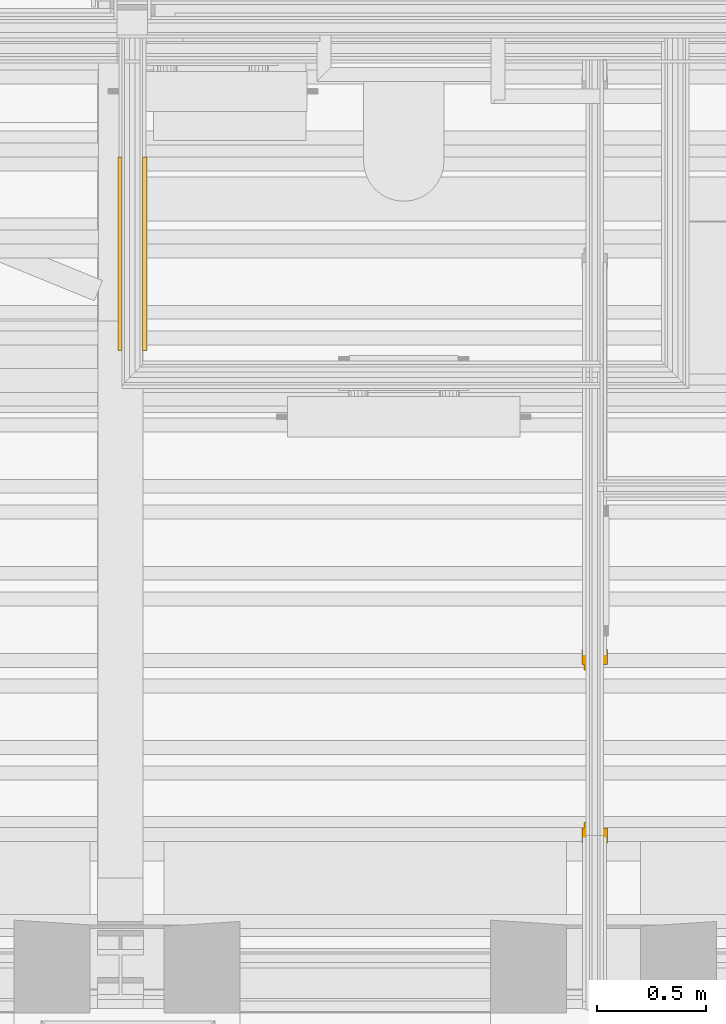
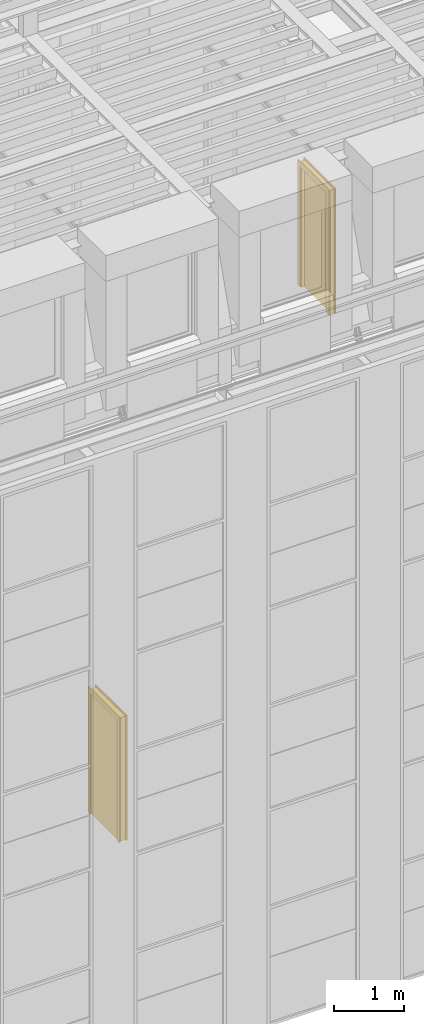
# One storey, part 115 of 183: 2 doors.
"""IFC2X3 building model written with IfcOpenShell, lengths in metres."""

from ifc_helpers import new_model, entity, si_unit, converted_unit, derived_unit, money_unit, direction, frame, origin_with_axes, place, context, subcontext, project, spatial, faceted_brep, material, type_object, element, save


model = new_model("IFC2X3")

# Units and contexts
model_context = context("Model", 3, precision=1e-05, world=origin_with_axes(), true_north=direction((0.0, 1.0)))
body_context = subcontext(model_context, "Body", "Model", "MODEL_VIEW", scale=1.0)
ifc_project = project(units=[si_unit("LENGTHUNIT", "METRE"), si_unit("AREAUNIT", "SQUARE_METRE"), si_unit("VOLUMEUNIT", "CUBIC_METRE"), si_unit("ABSORBEDDOSEUNIT", "GRAY"), si_unit("AMOUNTOFSUBSTANCEUNIT", "MOLE"), si_unit("DOSEEQUIVALENTUNIT", "SIEVERT"), si_unit("ELECTRICCAPACITANCEUNIT", "FARAD"), si_unit("ELECTRICCHARGEUNIT", "COULOMB"), si_unit("ELECTRICCONDUCTANCEUNIT", "SIEMENS"), si_unit("ELECTRICCURRENTUNIT", "AMPERE"), si_unit("ELECTRICRESISTANCEUNIT", "OHM"), si_unit("ELECTRICVOLTAGEUNIT", "VOLT"), si_unit("ENERGYUNIT", "JOULE"), si_unit("FORCEUNIT", "NEWTON"), si_unit("FREQUENCYUNIT", "HERTZ"), si_unit("ILLUMINANCEUNIT", "LUX"), si_unit("INDUCTANCEUNIT", "HENRY"), si_unit("LUMINOUSFLUXUNIT", "LUMEN"), si_unit("LUMINOUSINTENSITYUNIT", "CANDELA"), si_unit("MAGNETICFLUXDENSITYUNIT", "TESLA"), si_unit("MAGNETICFLUXUNIT", "WEBER"), si_unit("MASSUNIT", "GRAM"), converted_unit("PLANEANGLEUNIT", "degree", entity("IfcReal", 0.0174532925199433), si_unit("PLANEANGLEUNIT", "RADIAN"), dimensions=[0, 0, 0, 0, 0, 0, 0]), si_unit("POWERUNIT", "WATT"), si_unit("PRESSUREUNIT", "PASCAL"), si_unit("RADIOACTIVITYUNIT", "BECQUEREL"), si_unit("SOLIDANGLEUNIT", "STERADIAN"), si_unit("THERMODYNAMICTEMPERATUREUNIT", "KELVIN"), si_unit("TIMEUNIT", "SECOND"), derived_unit("ACCELERATIONUNIT", [(si_unit("LENGTHUNIT", "METRE"), 1), (si_unit("TIMEUNIT", "SECOND"), -2)]), derived_unit("ANGULARVELOCITYUNIT", [(converted_unit("PLANEANGLEUNIT", "degree", entity("IfcReal", 0.0174532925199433), si_unit("PLANEANGLEUNIT", "RADIAN"), dimensions=[0, 0, 0, 0, 0, 0, 0]), 1), (si_unit("TIMEUNIT", "SECOND"), -1)]), derived_unit("CURVATUREUNIT", [(converted_unit("PLANEANGLEUNIT", "degree", entity("IfcReal", 0.0174532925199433), si_unit("PLANEANGLEUNIT", "RADIAN"), dimensions=[0, 0, 0, 0, 0, 0, 0]), 1), (si_unit("LENGTHUNIT", "METRE"), -1)]), derived_unit("DYNAMICVISCOSITYUNIT", [(si_unit("PRESSUREUNIT", "PASCAL"), 1), (si_unit("TIMEUNIT", "SECOND"), 1)]), derived_unit("HEATFLUXDENSITYUNIT", [(si_unit("POWERUNIT", "WATT"), 1), (si_unit("LENGTHUNIT", "METRE"), -2)]), derived_unit("HEATINGVALUEUNIT", [(si_unit("ENERGYUNIT", "JOULE"), 1), (si_unit("MASSUNIT", "GRAM"), -1)]), derived_unit("INTEGERCOUNTRATEUNIT", [(si_unit("TIMEUNIT", "SECOND"), -1)]), derived_unit("IONCONCENTRATIONUNIT", [(si_unit("MASSUNIT", "GRAM"), 1), (si_unit("VOLUMEUNIT", "CUBIC_METRE"), -1)]), derived_unit("ISOTHERMALMOISTURECAPACITYUNIT", [(si_unit("VOLUMEUNIT", "CUBIC_METRE"), 1), (si_unit("MASSUNIT", "GRAM"), -1)]), derived_unit("KINEMATICVISCOSITYUNIT", [(si_unit("AREAUNIT", "SQUARE_METRE"), 1), (si_unit("TIMEUNIT", "SECOND"), -1)]), derived_unit("LINEARFORCEUNIT", [(si_unit("FORCEUNIT", "NEWTON"), 1), (si_unit("LENGTHUNIT", "METRE"), -1)]), derived_unit("LINEARMOMENTUNIT", [(si_unit("FORCEUNIT", "NEWTON"), 1), (si_unit("LENGTHUNIT", "METRE"), -1)]), derived_unit("LINEARSTIFFNESSUNIT", [(si_unit("FORCEUNIT", "NEWTON"), 1), (si_unit("LENGTHUNIT", "METRE"), -1)]), derived_unit("LINEARVELOCITYUNIT", [(si_unit("LENGTHUNIT", "METRE"), 1), (si_unit("TIMEUNIT", "SECOND"), -1)]), derived_unit("LUMINOUSINTENSITYDISTRIBUTIONUNIT", [(si_unit("LUMINOUSINTENSITYUNIT", "CANDELA"), 1), (si_unit("LUMINOUSFLUXUNIT", "LUMEN"), -1)]), derived_unit("MASSDENSITYUNIT", [(si_unit("MASSUNIT", "GRAM"), 1), (si_unit("VOLUMEUNIT", "CUBIC_METRE"), -1)]), derived_unit("MASSFLOWRATEUNIT", [(si_unit("MASSUNIT", "GRAM"), 1), (si_unit("TIMEUNIT", "SECOND"), -1)]), derived_unit("MASSPERLENGTHUNIT", [(si_unit("MASSUNIT", "GRAM"), 1), (si_unit("LENGTHUNIT", "METRE"), -1)]), derived_unit("MODULUSOFELASTICITYUNIT", [(si_unit("FORCEUNIT", "NEWTON"), 1), (si_unit("AREAUNIT", "SQUARE_METRE"), -1)]), derived_unit("MODULUSOFLINEARSUBGRADEREACTIONUNIT", [(si_unit("FORCEUNIT", "NEWTON"), 1), (si_unit("LENGTHUNIT", "METRE"), -2)]), derived_unit("MODULUSOFROTATIONALSUBGRADEREACTIONUNIT", [(si_unit("FORCEUNIT", "NEWTON"), 1), (si_unit("LENGTHUNIT", "METRE"), 1)]), derived_unit("MODULUSOFSUBGRADEREACTIONUNIT", [(si_unit("FORCEUNIT", "NEWTON"), 1), (si_unit("VOLUMEUNIT", "CUBIC_METRE"), -1)]), derived_unit("MOISTUREDIFFUSIVITYUNIT", [(si_unit("VOLUMEUNIT", "CUBIC_METRE"), 1), (si_unit("TIMEUNIT", "SECOND"), -1)]), derived_unit("MOLECULARWEIGHTUNIT", [(si_unit("MASSUNIT", "GRAM"), 1), (si_unit("AMOUNTOFSUBSTANCEUNIT", "MOLE"), -1)]), derived_unit("PLANARFORCEUNIT", [(si_unit("FORCEUNIT", "NEWTON"), 1), (si_unit("LENGTHUNIT", "METRE"), -2)]), derived_unit("ROTATIONALFREQUENCYUNIT", [(si_unit("TIMEUNIT", "SECOND"), -1)]), derived_unit("ROTATIONALMASSUNIT", [(si_unit("MASSUNIT", "GRAM"), 1), (si_unit("LENGTHUNIT", "METRE"), 2)]), derived_unit("ROTATIONALSTIFFNESSUNIT", [(si_unit("FORCEUNIT", "NEWTON"), 1), (si_unit("LENGTHUNIT", "METRE"), 1), (converted_unit("PLANEANGLEUNIT", "degree", entity("IfcReal", 0.0174532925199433), si_unit("PLANEANGLEUNIT", "RADIAN"), dimensions=[0, 0, 0, 0, 0, 0, 0]), -1)]), derived_unit("SECTIONAREAINTEGRALUNIT", [(si_unit("LENGTHUNIT", "METRE"), 5)]), derived_unit("SECTIONMODULUSUNIT", [(si_unit("LENGTHUNIT", "METRE"), 3)]), derived_unit("SHEARMODULUSUNIT", [(si_unit("FORCEUNIT", "NEWTON"), 1), (si_unit("AREAUNIT", "SQUARE_METRE"), -1)]), derived_unit("SOUNDPOWERUNIT", [(si_unit("ENERGYUNIT", "JOULE"), 1), (si_unit("TIMEUNIT", "SECOND"), -1)]), derived_unit("SPECIFICHEATCAPACITYUNIT", [(si_unit("FORCEUNIT", "NEWTON"), 1), (si_unit("MASSUNIT", "GRAM"), -1), (si_unit("THERMODYNAMICTEMPERATUREUNIT", "KELVIN"), -1)]), derived_unit("TEMPERATUREGRADIENTUNIT", [(si_unit("THERMODYNAMICTEMPERATUREUNIT", "KELVIN"), 1), (si_unit("LENGTHUNIT", "METRE"), -1)]), derived_unit("THERMALADMITTANCEUNIT", [(si_unit("POWERUNIT", "WATT"), 1), (si_unit("AREAUNIT", "SQUARE_METRE"), -1), (si_unit("THERMODYNAMICTEMPERATUREUNIT", "KELVIN"), -1)]), derived_unit("THERMALCONDUCTANCEUNIT", [(si_unit("POWERUNIT", "WATT"), 1), (si_unit("LENGTHUNIT", "METRE"), -1), (si_unit("THERMODYNAMICTEMPERATUREUNIT", "KELVIN"), -1)]), derived_unit("THERMALEXPANSIONCOEFFICIENTUNIT", [(si_unit("THERMODYNAMICTEMPERATUREUNIT", "KELVIN"), -1)]), derived_unit("THERMALRESISTANCEUNIT", [(si_unit("AREAUNIT", "SQUARE_METRE"), 1), (si_unit("POWERUNIT", "WATT"), -1)]), derived_unit("THERMALTRANSMITTANCEUNIT", [(si_unit("POWERUNIT", "WATT"), 1), (si_unit("AREAUNIT", "SQUARE_METRE"), -1), (si_unit("THERMODYNAMICTEMPERATUREUNIT", "KELVIN"), -1)]), derived_unit("TORQUEUNIT", [(si_unit("FORCEUNIT", "NEWTON"), 1), (si_unit("LENGTHUNIT", "METRE"), 1)]), derived_unit("VAPORPERMEABILITYUNIT", [(si_unit("MASSUNIT", "GRAM"), 1), (si_unit("TIMEUNIT", "SECOND"), -1)]), derived_unit("VOLUMETRICFLOWRATEUNIT", [(si_unit("VOLUMEUNIT", "CUBIC_METRE"), 1), (si_unit("TIMEUNIT", "SECOND"), -1)]), derived_unit("WARPINGCONSTANTUNIT", [(si_unit("LENGTHUNIT", "METRE"), 6)]), derived_unit("WARPINGMOMENTUNIT", [(si_unit("FORCEUNIT", "NEWTON"), 1), (si_unit("LENGTHUNIT", "METRE"), 2)]), money_unit("GBP")], contexts=[model_context])

# Site, building, storey, space
site_placement = place(None, origin_with_axes())
site = spatial("IfcSite", under=ifc_project, at=site_placement, Name="Site", CompositionType="ELEMENT")
building_placement = place(site_placement, origin_with_axes())
building = spatial("IfcBuilding", under=site, at=building_placement, Name="Building01", CompositionType="ELEMENT")
storey_placement = place(building_placement, frame((0.0, 0.0, 5.15), z_axis=(0.0, 0.0, 1.0), x_axis=(1.0, 0.0, 0.0)))
storey = spatial("IfcBuildingStorey", under=building, at=storey_placement, Name="1F", CompositionType="ELEMENT", Elevation=5.15)
space_1_placement = place(storey_placement, frame((12.175, 4.189428, 9.81), z_axis=(0.0, 0.0, 1.0), x_axis=(0.0, 1.0, 0.0)))
space_1 = spatial("IfcSpace", under=storey, at=space_1_placement, Name="25", CompositionType="ELEMENT", InteriorOrExteriorSpace="NOTDEFINED")

# Door
ifc_material = material(Name="A_BSUK_Doors")
door_style_1 = type_object("IfcDoorStyle", Name="A-Doors-SingleFlush", ConstructionType="USERDEFINED", OperationType="SINGLE_SWING_RIGHT", ParameterTakesPrecedence=False, Sizeable=False)
door_1_placement = place(storey_placement, frame((11.31, 2.099939, 9.78), z_axis=(0.0, 0.0, 1.0), x_axis=(0.0, -1.0, 0.0)))
element("IfcDoor", 1, at=door_1_placement, inside=space_1, type_object=door_style_1, material=ifc_material, Name="4.23", ObjectType="A-Doors-SingleFlush", OverallHeight=2.16900000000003, OverallWidth=0.888000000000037, context=body_context, shape_type="Brep", body=[
    faceted_brep([(0.75, -0.099, 0.0), (0.819, -0.099, 0.0), (0.819, -0.099, 2.169), (-0.069, -0.099, 2.169), (-0.069, -0.099, 0.0), (0.0, -0.099, 0.0), (0.0, -0.099, 2.1), (0.75, -0.099, 2.1), (-0.069, -0.08, 0.0), (-0.069, -0.08, 2.169), (0.819, -0.08, 2.169), (0.819, -0.08, 0.0), (0.75, 0.019, 0.0), (0.819, 0.019, 0.0), (0.819, 0.0, 0.0), (0.792, 0.0, 0.0), (0.792, -0.08, 0.0), (0.75, 0.019, 2.1), (0.0, 0.019, 2.1), (0.0, 0.019, 0.0), (-0.069, 0.019, 0.0), (-0.069, 0.019, 2.169), (0.819, 0.019, 2.169), (0.819, 0.0, 2.169), (0.792, -0.08, 2.142), (0.792, 0.0, 2.142), (-0.042, -0.08, 2.142), (-0.042, 0.0, 2.142), (-0.042, -0.08, 0.0), (-0.042, 0.0, 0.0), (-0.069, 0.0, 2.169), (-0.069, 0.0, 0.0)], [[[0, 1, 2, 3, 4, 5, 6, 7]], [[8, 4, 3, 9]], [[10, 2, 1, 11]], [[9, 3, 2, 10]], [[12, 13, 14, 15, 16, 11, 1, 0]], [[7, 17, 12, 0]], [[6, 18, 17, 7]], [[18, 19, 20, 21, 22, 13, 12, 17]], [[5, 19, 18, 6]], [[13, 22, 23, 14]], [[24, 16, 15, 25]], [[26, 24, 25, 27]], [[11, 16, 24, 26, 28, 8, 9, 10]], [[27, 29, 28, 26]], [[25, 15, 14, 23, 30, 31, 29, 27]], [[5, 4, 8, 28, 29, 31, 20, 19]], [[30, 21, 20, 31]], [[23, 22, 21, 30]]]),
    faceted_brep([(0.0, -0.09, 2.1), (0.0, -0.04, 2.1), (0.0, -0.04, 0.0), (0.0, -0.09, 0.0), (0.725, -0.09, 0.0), (0.75, -0.09, 0.0), (0.75, -0.09, 2.1), (0.025, -0.09, 0.0), (0.025, -0.09, 2.075), (0.725, -0.09, 2.075), (0.725, -0.04, 0.0), (0.75, -0.04, 0.0), (0.75, -0.04, 2.1), (0.025, -0.04, 2.075), (0.025, -0.04, 0.0), (0.725, -0.04, 2.075)], [[[0, 1, 2, 3]], [[4, 5, 6, 0, 3, 7, 8, 9]], [[10, 11, 5, 4]], [[6, 12, 1, 0]], [[5, 11, 12, 6]], [[13, 14, 2, 1, 12, 11, 10, 15]], [[7, 14, 13, 8]], [[7, 3, 2, 14]], [[9, 15, 10, 4]], [[8, 13, 15, 9]]]),
    faceted_brep([(0.75, -0.04, 0.0), (0.75, 0.0, 0.0), (0.75, 0.0, 2.1), (0.75, -0.04, 2.1), (0.0, -0.04, 2.1), (0.0, 0.0, 2.1), (0.0, 0.0, 0.0), (0.0, -0.04, 0.0)], [[[0, 1, 2, 3]], [[4, 5, 6, 7]], [[7, 6, 1, 0]], [[3, 4, 7, 0]], [[3, 2, 5, 4]], [[1, 6, 5, 2]]]),
])

# Space
space_2_placement = place(storey_placement, frame((12.15, 4.98, 0.017975), z_axis=(0.0, 0.0, 1.0), x_axis=(-1.0, 0.0, 0.0)))
space_2 = spatial("IfcSpace", under=storey, at=space_2_placement, Name="05", CompositionType="ELEMENT", InteriorOrExteriorSpace="NOTDEFINED")

# Door
door_style_2 = type_object("IfcDoorStyle", Name="A-Doors-SingleFlush", ConstructionType="USERDEFINED", OperationType="SINGLE_SWING_LEFT", ParameterTakesPrecedence=False, Sizeable=False)
door_2_placement = place(storey_placement, frame((9.097536, 3.613781, 0.0), z_axis=(0.0, 0.0, 1.0), x_axis=(0.0, 1.0, 0.0)))
element("IfcDoor", 2, at=door_2_placement, inside=space_2, type_object=door_style_2, material=ifc_material, Name="1.15", ObjectType="A-Doors-SingleFlush", OverallHeight=2.16900000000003, OverallWidth=0.888000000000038, context=body_context, shape_type="Brep", body=[
    faceted_brep([(0.0, -0.114, 2.1), (0.75, -0.114, 2.1), (0.75, -0.114, 0.0), (0.819, -0.114, 0.0), (0.819, -0.114, 2.169), (-0.069, -0.114, 2.169), (-0.069, -0.114, 0.0), (0.0, -0.114, 0.0), (0.819, -0.095, 2.169), (0.819, -0.095, 0.0), (-0.069, -0.095, 0.0), (-0.069, -0.095, 2.169), (-0.042, -0.095, 0.0), (-0.042, 0.0, 0.0), (-0.069, 0.0, 0.0), (-0.069, 0.019, 0.0), (0.0, 0.019, 0.0), (0.0, 0.019, 2.1), (0.75, 0.019, 2.1), (-0.069, 0.019, 2.169), (0.819, 0.019, 2.169), (0.819, 0.019, 0.0), (0.75, 0.019, 0.0), (-0.069, 0.0, 2.169), (-0.042, 0.0, 2.142), (-0.042, -0.095, 2.142), (0.792, 0.0, 2.142), (0.792, -0.095, 2.142), (0.792, -0.095, 0.0), (0.792, 0.0, 0.0), (0.819, 0.0, 0.0), (0.819, 0.0, 2.169)], [[[0, 1, 2, 3, 4, 5, 6, 7]], [[8, 4, 3, 9]], [[10, 6, 5, 11]], [[11, 5, 4, 8]], [[7, 6, 10, 12, 13, 14, 15, 16]], [[7, 16, 17, 0]], [[0, 17, 18, 1]], [[17, 16, 15, 19, 20, 21, 22, 18]], [[1, 18, 22, 2]], [[14, 23, 19, 15]], [[24, 13, 12, 25]], [[26, 24, 25, 27]], [[11, 8, 9, 28, 27, 25, 12, 10]], [[27, 28, 29, 26]], [[26, 29, 30, 31, 23, 14, 13, 24]], [[22, 21, 30, 29, 28, 9, 3, 2]], [[30, 21, 20, 31]], [[31, 20, 19, 23]]]),
    faceted_brep([(0.75, -0.09, 0.0), (0.75, -0.04, 0.0), (0.75, -0.04, 2.1), (0.75, -0.09, 2.1), (0.025, -0.09, 2.075), (0.725, -0.09, 2.075), (0.725, -0.09, 0.0), (0.0, -0.09, 2.1), (0.0, -0.09, 0.0), (0.025, -0.09, 0.0), (0.0, -0.04, 0.0), (0.025, -0.04, 0.0), (0.0, -0.04, 2.1), (0.025, -0.04, 2.075), (0.725, -0.04, 0.0), (0.725, -0.04, 2.075)], [[[0, 1, 2, 3]], [[4, 5, 6, 0, 3, 7, 8, 9]], [[9, 8, 10, 11]], [[3, 2, 12, 7]], [[7, 12, 10, 8]], [[13, 11, 10, 12, 2, 1, 14, 15]], [[5, 15, 14, 6]], [[14, 1, 0, 6]], [[9, 11, 13, 4]], [[4, 13, 15, 5]]]),
    faceted_brep([(0.0, -0.04, 2.1), (0.0, 0.0, 2.1), (0.0, 0.0, 0.0), (0.0, -0.04, 0.0), (0.75, -0.04, 0.0), (0.75, 0.0, 0.0), (0.75, 0.0, 2.1), (0.75, -0.04, 2.1)], [[[0, 1, 2, 3]], [[4, 5, 6, 7]], [[3, 2, 5, 4]], [[3, 4, 7, 0]], [[7, 6, 1, 0]], [[1, 6, 5, 2]]]),
])

save(model, "model.ifc")
